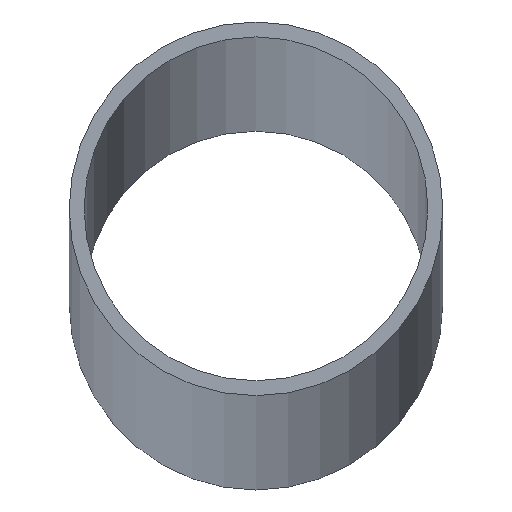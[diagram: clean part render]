
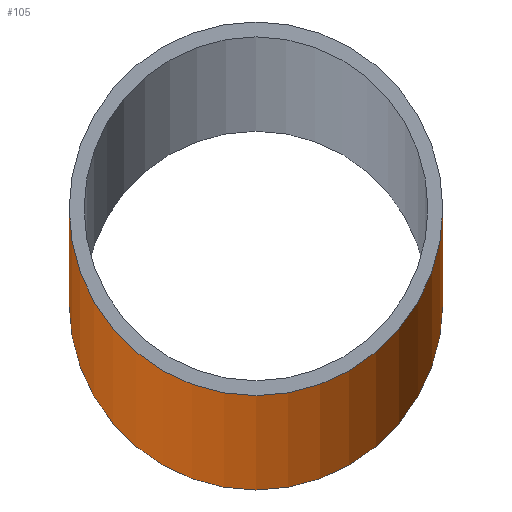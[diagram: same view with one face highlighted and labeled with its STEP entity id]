
A CAD part, top view. The second image highlights one B-rep face of the part: STEP entity #105.
In plain terms, the highlighted cylindrical face has radius 20.05 mm (diameter 40.1 mm), a full revolution.
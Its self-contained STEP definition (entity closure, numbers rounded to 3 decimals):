
#105=ADVANCED_FACE('',(#111,#112),#109,.T.);
#109=CYLINDRICAL_SURFACE('',#150,20.05);
#111=FACE_BOUND('',#119,.T.);
#112=FACE_BOUND('',#120,.T.);
#119=EDGE_LOOP('',(#127));
#120=EDGE_LOOP('',(#128));
#127=ORIENTED_EDGE('',*,*,#139,.F.);
#128=ORIENTED_EDGE('',*,*,#140,.T.);
#135=VERTEX_POINT('',#176);
#136=VERTEX_POINT('',#178);
#139=EDGE_CURVE('',#135,#135,#143,.T.);
#140=EDGE_CURVE('',#136,#136,#144,.T.);
#143=CIRCLE('',#148,20.05);
#144=CIRCLE('',#149,20.05);
#148=AXIS2_PLACEMENT_3D('',#175,#158,#159);
#149=AXIS2_PLACEMENT_3D('',#177,#160,#161);
#150=AXIS2_PLACEMENT_3D('',#179,#162,#163);
#158=DIRECTION('',(0.,0.,1.));
#159=DIRECTION('',(1.,0.,0.));
#160=DIRECTION('',(0.,0.,1.));
#161=DIRECTION('',(1.,0.,0.));
#162=DIRECTION('',(0.,0.,-1.));
#163=DIRECTION('',(-1.,0.,0.));
#175=CARTESIAN_POINT('',(0.,0.,5800.));
#176=CARTESIAN_POINT('',(20.05,0.,5800.));
#177=CARTESIAN_POINT('',(0.,0.,0.));
#178=CARTESIAN_POINT('',(20.05,0.,0.));
#179=CARTESIAN_POINT('',(0.,0.,5800.));
